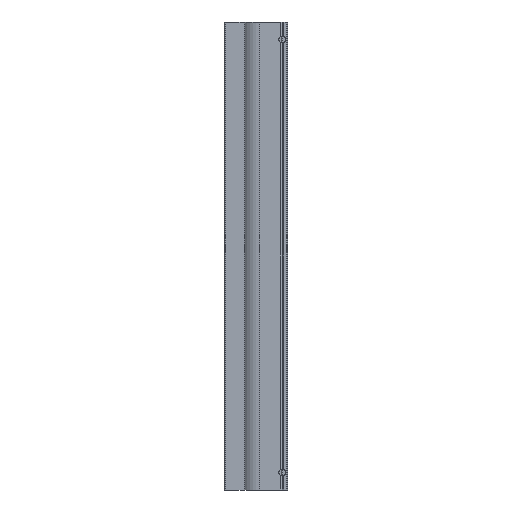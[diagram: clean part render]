
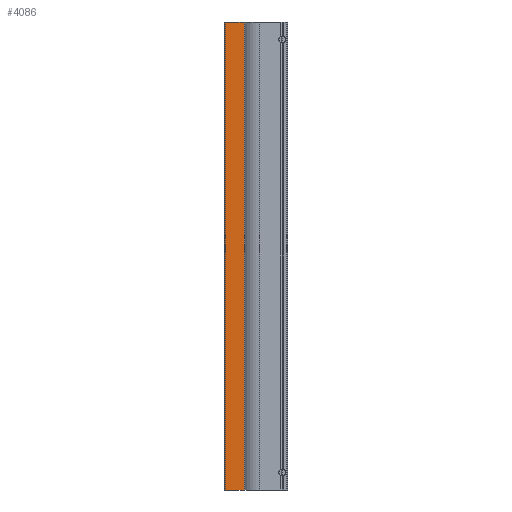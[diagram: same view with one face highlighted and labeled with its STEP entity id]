
A CAD part, left-side view. The second image highlights one B-rep face of the part: STEP entity #4086.
In plain terms, the highlighted planar face has unit normal (-1, 0, 0).
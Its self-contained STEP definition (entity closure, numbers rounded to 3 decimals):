
#144=LINE('',#7992,#336);
#195=LINE('',#8142,#387);
#196=LINE('',#8145,#388);
#197=LINE('',#8146,#389);
#336=VECTOR('',#5598,10.782);
#387=VECTOR('',#5771,267.);
#388=VECTOR('',#5774,10.782);
#389=VECTOR('',#5775,267.);
#520=PLANE('',#4601);
#1061=FACE_OUTER_BOUND('',#1488,.T.);
#1488=EDGE_LOOP('',(#3510,#3511,#3512,#3513));
#2149=VERTEX_POINT('',#7989);
#2150=VERTEX_POINT('',#7991);
#2188=VERTEX_POINT('',#8140);
#2189=VERTEX_POINT('',#8144);
#2594=EDGE_CURVE('',#2150,#2149,#144,.T.);
#2669=EDGE_CURVE('',#2149,#2188,#195,.T.);
#2670=EDGE_CURVE('',#2188,#2189,#196,.T.);
#2671=EDGE_CURVE('',#2150,#2189,#197,.T.);
#3510=ORIENTED_EDGE('',*,*,#2670,.T.);
#3511=ORIENTED_EDGE('',*,*,#2671,.F.);
#3512=ORIENTED_EDGE('',*,*,#2594,.T.);
#3513=ORIENTED_EDGE('',*,*,#2669,.T.);
#4086=ADVANCED_FACE('',(#1061),#520,.T.);
#4601=AXIS2_PLACEMENT_3D('',#8143,#5772,#5773);
#5598=DIRECTION('',(0.,-1.,0.));
#5771=DIRECTION('',(0.,0.,1.));
#5772=DIRECTION('center_axis',(-1.,0.,0.));
#5773=DIRECTION('ref_axis',(0.,0.,1.));
#5774=DIRECTION('',(0.,1.,0.));
#5775=DIRECTION('',(0.,0.,1.));
#7989=CARTESIAN_POINT('',(-32.,24.718,-133.5));
#7991=CARTESIAN_POINT('',(-32.,35.5,-133.5));
#7992=CARTESIAN_POINT('',(-32.,35.5,-133.5));
#8140=CARTESIAN_POINT('',(-32.,24.718,133.5));
#8142=CARTESIAN_POINT('',(-32.,24.718,0.));
#8143=CARTESIAN_POINT('Origin',(-32.,24.718,0.));
#8144=CARTESIAN_POINT('',(-32.,35.5,133.5));
#8145=CARTESIAN_POINT('',(-32.,35.5,133.5));
#8146=CARTESIAN_POINT('',(-32.,35.5,0.));
